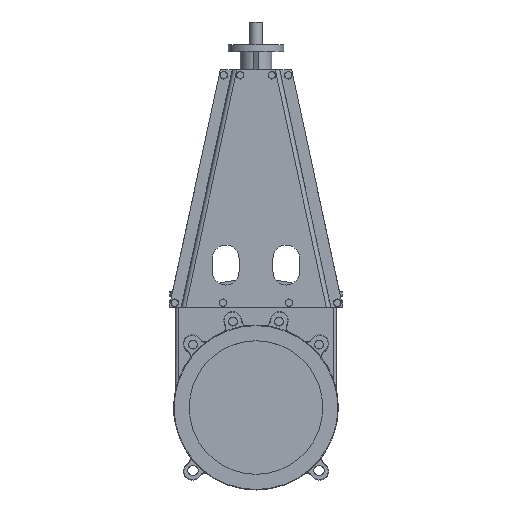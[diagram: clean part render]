
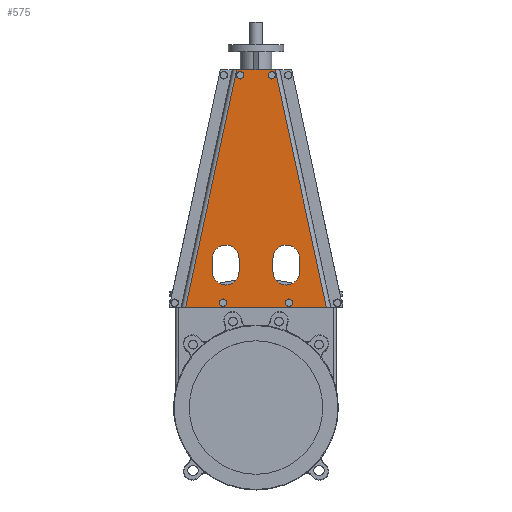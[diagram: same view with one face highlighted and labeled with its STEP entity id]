
A CAD part, top view. The second image highlights one B-rep face of the part: STEP entity #575.
In plain terms, the highlighted planar face has unit normal (0, 0, 1).
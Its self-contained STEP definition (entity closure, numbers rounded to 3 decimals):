
#575=ADVANCED_FACE('',(#9108,#9110,#9112,#9114,#9116,#9118,#9120),#9122,.F.);
#9108=FACE_BOUND('',#9109,.T.);
#9109=EDGE_LOOP('',(#16076,#16077,#16078,#16079));
#9110=FACE_BOUND('',#9111,.T.);
#9111=EDGE_LOOP('',(#16080));
#9112=FACE_BOUND('',#9113,.T.);
#9113=EDGE_LOOP('',(#16081));
#9114=FACE_BOUND('',#9115,.T.);
#9115=EDGE_LOOP('',(#16082));
#9116=FACE_BOUND('',#9117,.T.);
#9117=EDGE_LOOP('',(#16083,#16084,#16085,#16086));
#9118=FACE_BOUND('',#9119,.T.);
#9119=EDGE_LOOP('',(#16087,#16088,#16089,#16090));
#9120=FACE_BOUND('',#9121,.T.);
#9121=EDGE_LOOP('',(#16091));
#9122=PLANE('',#9123);
#9123=AXIS2_PLACEMENT_3D('',#9124,#9125,#9126);
#9124=CARTESIAN_POINT('',(-43.074,759.,74.));
#9125=DIRECTION('',(0.,0.,-1.));
#9126=DIRECTION('',(1.,0.,0.));
#16076=ORIENTED_EDGE('',*,*,#21168,.T.);
#16077=ORIENTED_EDGE('',*,*,#21172,.F.);
#16078=ORIENTED_EDGE('',*,*,#21173,.F.);
#16079=ORIENTED_EDGE('',*,*,#20978,.F.);
#16080=ORIENTED_EDGE('',*,*,#21174,.F.);
#16081=ORIENTED_EDGE('',*,*,#21175,.T.);
#16082=ORIENTED_EDGE('',*,*,#21176,.T.);
#16083=ORIENTED_EDGE('',*,*,#21177,.T.);
#16084=ORIENTED_EDGE('',*,*,#21178,.T.);
#16085=ORIENTED_EDGE('',*,*,#21179,.T.);
#16086=ORIENTED_EDGE('',*,*,#21180,.T.);
#16087=ORIENTED_EDGE('',*,*,#21181,.T.);
#16088=ORIENTED_EDGE('',*,*,#21182,.T.);
#16089=ORIENTED_EDGE('',*,*,#21183,.T.);
#16090=ORIENTED_EDGE('',*,*,#21184,.T.);
#16091=ORIENTED_EDGE('',*,*,#21185,.F.);
#20978=EDGE_CURVE('',#23310,#23312,#23313,.T.);
#21168=EDGE_CURVE('',#23310,#23641,#23643,.T.);
#21172=EDGE_CURVE('',#23650,#23641,#23651,.T.);
#21173=EDGE_CURVE('',#23312,#23650,#23652,.T.);
#21174=EDGE_CURVE('',#23653,#23653,#23654,.T.);
#21175=EDGE_CURVE('',#23655,#23655,#23656,.F.);
#21176=EDGE_CURVE('',#23657,#23657,#23658,.F.);
#21177=EDGE_CURVE('',#23659,#23660,#23661,.F.);
#21178=EDGE_CURVE('',#23660,#23662,#23663,.T.);
#21179=EDGE_CURVE('',#23662,#23664,#23665,.F.);
#21180=EDGE_CURVE('',#23664,#23659,#23666,.T.);
#21181=EDGE_CURVE('',#23667,#23668,#23669,.F.);
#21182=EDGE_CURVE('',#23668,#23670,#23671,.T.);
#21183=EDGE_CURVE('',#23670,#23672,#23673,.F.);
#21184=EDGE_CURVE('',#23672,#23667,#23674,.T.);
#21185=EDGE_CURVE('',#23675,#23675,#23676,.T.);
#23310=VERTEX_POINT('',#27071);
#23312=VERTEX_POINT('',#27076);
#23313=LINE('',#27077,#27078);
#23641=VERTEX_POINT('',#27838);
#23643=LINE('',#27843,#27844);
#23650=VERTEX_POINT('',#27860);
#23651=LINE('',#27861,#27862);
#23652=LINE('',#27864,#27865);
#23653=VERTEX_POINT('',#27867);
#23654=CIRCLE('',#27868,8.);
#23655=VERTEX_POINT('',#27872);
#23656=CIRCLE('',#27873,8.);
#23657=VERTEX_POINT('',#27877);
#23658=CIRCLE('',#27878,8.);
#23659=VERTEX_POINT('',#27882);
#23660=VERTEX_POINT('',#27883);
#23661=CIRCLE('',#27884,30.);
#23662=VERTEX_POINT('',#27888);
#23663=LINE('',#27889,#27890);
#23664=VERTEX_POINT('',#27892);
#23665=CIRCLE('',#27893,30.);
#23666=LINE('',#27897,#27898);
#23667=VERTEX_POINT('',#27900);
#23668=VERTEX_POINT('',#27901);
#23669=CIRCLE('',#27902,30.);
#23670=VERTEX_POINT('',#27906);
#23671=LINE('',#27907,#27908);
#23672=VERTEX_POINT('',#27910);
#23673=CIRCLE('',#27911,30.);
#23674=LINE('',#27915,#27916);
#23675=VERTEX_POINT('',#27918);
#23676=CIRCLE('',#27919,8.);
#27071=CARTESIAN_POINT('',(-43.074,759.,74.));
#27076=CARTESIAN_POINT('',(43.074,759.,74.));
#27077=CARTESIAN_POINT('',(-43.074,759.,74.));
#27078=VECTOR('',#27079,1.);
#27079=DIRECTION('',(1.,0.,0.));
#27838=CARTESIAN_POINT('',(-158.074,225.,74.));
#27843=CARTESIAN_POINT('',(-43.074,759.,74.));
#27844=VECTOR('',#27845,1.);
#27845=DIRECTION('',(-0.211,-0.978,0.));
#27860=CARTESIAN_POINT('',(158.074,225.,74.));
#27861=CARTESIAN_POINT('',(158.074,225.,74.));
#27862=VECTOR('',#27863,1.);
#27863=DIRECTION('',(-1.,0.,0.));
#27864=CARTESIAN_POINT('',(43.074,759.,74.));
#27865=VECTOR('',#27866,1.);
#27866=DIRECTION('',(0.211,-0.978,0.));
#27867=CARTESIAN_POINT('',(43.537,746.5,74.));
#27868=AXIS2_PLACEMENT_3D('',#27869,#27870,#27871);
#27869=CARTESIAN_POINT('',(35.537,746.5,74.));
#27870=DIRECTION('',(0.,0.,1.));
#27871=DIRECTION('',(1.,0.,0.));
#27872=CARTESIAN_POINT('',(-66.087,235.,74.));
#27873=AXIS2_PLACEMENT_3D('',#27874,#27875,#27876);
#27874=CARTESIAN_POINT('',(-74.087,235.,74.));
#27875=DIRECTION('',(0.,0.,1.));
#27876=DIRECTION('',(1.,0.,0.));
#27877=CARTESIAN_POINT('',(82.087,235.,74.));
#27878=AXIS2_PLACEMENT_3D('',#27879,#27880,#27881);
#27879=CARTESIAN_POINT('',(74.087,235.,74.));
#27880=DIRECTION('',(0.,0.,1.));
#27881=DIRECTION('',(1.,0.,0.));
#27882=CARTESIAN_POINT('',(-98.074,335.,74.));
#27883=CARTESIAN_POINT('',(-38.074,335.,74.));
#27884=AXIS2_PLACEMENT_3D('',#27885,#27886,#27887);
#27885=CARTESIAN_POINT('',(-68.074,335.,74.));
#27886=DIRECTION('',(0.,0.,1.));
#27887=DIRECTION('',(1.,0.,0.));
#27888=CARTESIAN_POINT('',(-38.074,305.,74.));
#27889=CARTESIAN_POINT('',(-38.074,335.,74.));
#27890=VECTOR('',#27891,1.);
#27891=DIRECTION('',(0.,-1.,0.));
#27892=CARTESIAN_POINT('',(-98.074,305.,74.));
#27893=AXIS2_PLACEMENT_3D('',#27894,#27895,#27896);
#27894=CARTESIAN_POINT('',(-68.074,305.,74.));
#27895=DIRECTION('',(0.,0.,1.));
#27896=DIRECTION('',(-1.,0.,0.));
#27897=CARTESIAN_POINT('',(-98.074,305.,74.));
#27898=VECTOR('',#27899,1.);
#27899=DIRECTION('',(0.,1.,0.));
#27900=CARTESIAN_POINT('',(38.074,335.,74.));
#27901=CARTESIAN_POINT('',(98.074,335.,74.));
#27902=AXIS2_PLACEMENT_3D('',#27903,#27904,#27905);
#27903=CARTESIAN_POINT('',(68.074,335.,74.));
#27904=DIRECTION('',(0.,0.,1.));
#27905=DIRECTION('',(1.,0.,0.));
#27906=CARTESIAN_POINT('',(98.074,305.,74.));
#27907=CARTESIAN_POINT('',(98.074,335.,74.));
#27908=VECTOR('',#27909,1.);
#27909=DIRECTION('',(0.,-1.,0.));
#27910=CARTESIAN_POINT('',(38.074,305.,74.));
#27911=AXIS2_PLACEMENT_3D('',#27912,#27913,#27914);
#27912=CARTESIAN_POINT('',(68.074,305.,74.));
#27913=DIRECTION('',(0.,0.,1.));
#27914=DIRECTION('',(-1.,0.,0.));
#27915=CARTESIAN_POINT('',(38.074,305.,74.));
#27916=VECTOR('',#27917,1.);
#27917=DIRECTION('',(0.,1.,0.));
#27918=CARTESIAN_POINT('',(-27.537,746.5,74.));
#27919=AXIS2_PLACEMENT_3D('',#27920,#27921,#27922);
#27920=CARTESIAN_POINT('',(-35.537,746.5,74.));
#27921=DIRECTION('',(0.,0.,1.));
#27922=DIRECTION('',(1.,0.,0.));
